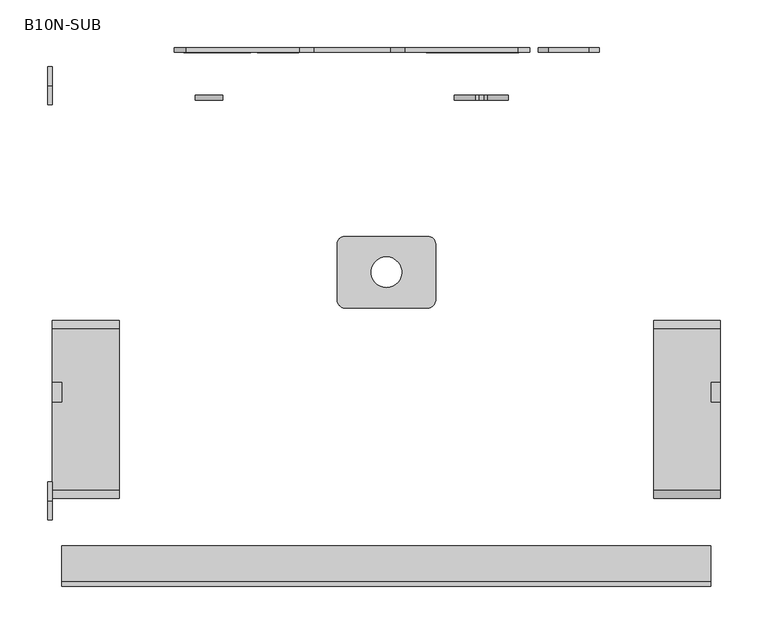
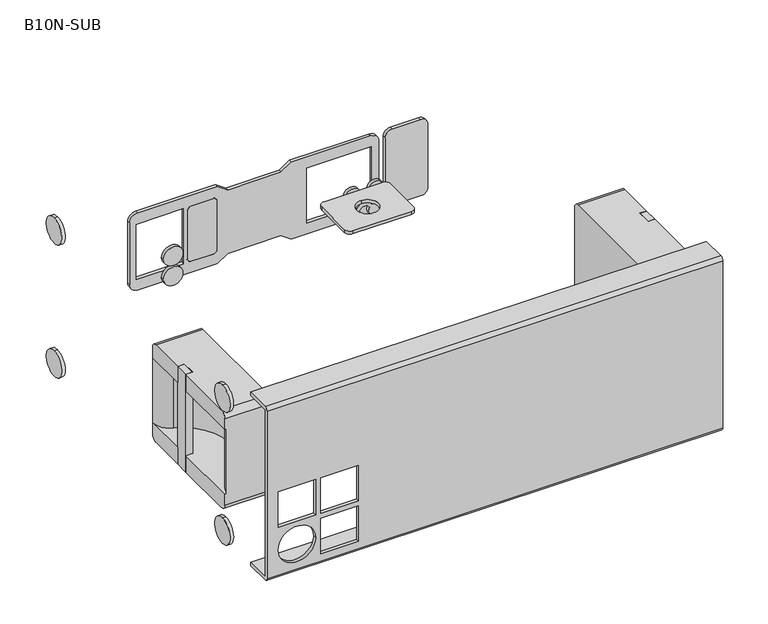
"""IFC4 building model written with IfcOpenShell, lengths in millimetres: proxy geometry, d&b B10N-SUB : B10N-SUB."""

from ifc_helpers import new_model, si_unit, point, frame, frame_2d, origin, place, context, project, spatial, polyline, circle_curve, trimmed, segment, composite_curve, outline, extrude, source, transform, mapped, element, save
from ifc_brep_helpers import plane_surface, cylinder_surface, revolved_surface, advanced_brep


def b10n_sub_55d3283e(model_context):
    return source(origin(), model_context, "Body", "SolidModel", [
        advanced_brep(
        [(2782.5, 31.2505973, 73.75), (2782.5, 31.2505973, 210.25), (2782.5, 40.2505973, 219.25), (2782.5, 209.2505973, 219.25), (2782.5, 218.2505973, 210.25), (2782.5, 218.2505973, 73.75), (2782.5, 209.2505973, 64.75), (2782.5, 40.2505973, 64.75), (2852.5, 218.2505973, 90.75), (2852.5, 153.5505973, 90.75), (2852.5, 153.5505973, 64.75), (2852.5, 209.2505973, 64.75), (2852.5, 218.2505973, 73.75), (2852.5, 31.2505973, 73.75), (2852.5, 40.2505973, 64.75), (2852.5, 132.1755973, 64.75), (2852.5, 132.1755973, 90.75), (2852.5, 31.2505973, 90.75), (2852.5, 31.2505973, 210.25), (2852.5, 31.2505973, 193.25), (2852.5, 132.1755973, 193.25), (2852.5, 132.1755973, 219.25), (2852.5, 40.2505973, 219.25), (2852.5, 218.2505973, 193.25), (2852.5, 218.2505973, 210.25), (2852.5, 209.2505973, 219.25), (2852.5, 153.5505973, 219.25), (2852.5, 153.5505973, 193.25), (2842.5, 153.5505973, 64.75), (2842.5, 132.1755973, 64.75), (2850.3277755, 31.2505973, 90.75), (2850.3277755, 31.2505973, 193.25), (2842.5, 132.1755973, 90.75), (2835.5638712, 194.3480463, 90.75), (2821.2971722, 71.2198126, 90.75), (2842.5, 153.5505973, 90.75), (2821.2971722, 71.2198126, 193.25), (2835.5638712, 194.3480463, 193.25), (2842.5, 153.5505973, 193.25), (2842.5, 132.1755973, 193.25), (2842.5, 132.1755973, 219.25), (2842.5, 153.5505973, 219.25)],
        [
            (0, 1),
            (1, 2, circle_curve(frame((2782.5, 40.2505973, 210.25), z_axis=(-1.0, 0.0, 0.0), x_axis=(0.0, 0.0, 1.0)), 9.0)),
            (2, 3),
            (3, 4, circle_curve(frame((2782.5, 209.2505973, 210.25), z_axis=(-1.0, 0.0, 0.0), x_axis=(0.0, 0.0, 1.0)), 9.0)),
            (4, 5),
            (5, 6, circle_curve(frame((2782.5, 209.2505973, 73.75), z_axis=(-1.0, 0.0, 0.0), x_axis=(0.0, 0.0, -1.0)), 9.0)),
            (6, 7),
            (7, 0, circle_curve(frame((2782.5, 40.2505973, 73.75), z_axis=(-1.0, 0.0, 0.0), x_axis=(0.0, 0.0, -1.0)), 9.0)),
            (8, 9),
            (9, 10),
            (10, 11),
            (11, 12, circle_curve(frame((2852.5, 209.2505973, 73.75), z_axis=(1.0, 0.0, 0.0), x_axis=(0.0, 0.0, -1.0)), 9.0)),
            (12, 8),
            (13, 14, circle_curve(frame((2852.5, 40.2505973, 73.75), z_axis=(1.0, 0.0, 0.0), x_axis=(0.0, 0.0, -1.0)), 9.0)),
            (14, 15),
            (15, 16),
            (16, 17),
            (17, 13),
            (18, 19),
            (19, 20),
            (20, 21),
            (21, 22),
            (22, 18, circle_curve(frame((2852.5, 40.2505973, 210.25), z_axis=(1.0, 0.0, 0.0), x_axis=(0.0, 0.0, 1.0)), 9.0)),
            (23, 24),
            (24, 25, circle_curve(frame((2852.5, 209.2505973, 210.25), z_axis=(1.0, 0.0, 0.0), x_axis=(0.0, 0.0, 1.0)), 9.0)),
            (25, 26),
            (26, 27),
            (27, 23),
            (7, 14),
            (13, 0),
            (10, 28),
            (28, 29),
            (29, 15),
            (6, 11),
            (5, 12),
            (4, 24),
            (23, 8),
            (17, 30),
            (30, 31),
            (31, 19),
            (18, 1),
            (29, 32),
            (32, 16),
            (8, 33, circle_curve(frame((2827.1646824, 218.2505973, 90.75), z_axis=(0.0, 0.0, -1.0), x_axis=(-1.0, 0.0, 0.0)), 25.3353176)),
            (33, 34, circle_curve(frame((2858.418024, 129.3093188, 90.75), z_axis=(0.0, 0.0, 1.0), x_axis=(-1.0, 0.0, 0.0)), 68.9372786)),
            (34, 30, circle_curve(frame((2784.8922182, 14.2505973, 90.75), z_axis=(0.0, 0.0, -1.0), x_axis=(-1.0, 0.0, 0.0)), 67.6077818)),
            (32, 35),
            (35, 9),
            (35, 28),
            (31, 36, circle_curve(frame((2784.8922182, 14.2505973, 193.25), z_axis=(0.0, 0.0, 1.0), x_axis=(-1.0, 0.0, 0.0)), 67.6077818)),
            (36, 37, circle_curve(frame((2858.418024, 129.3093188, 193.25), z_axis=(0.0, 0.0, -1.0), x_axis=(-1.0, 0.0, 0.0)), 68.9372786)),
            (37, 23, circle_curve(frame((2827.1646824, 218.2505973, 193.25), z_axis=(0.0, 0.0, 1.0), x_axis=(-1.0, 0.0, 0.0)), 25.3353176)),
            (27, 38),
            (38, 39),
            (39, 20),
            (39, 40),
            (40, 21),
            (40, 41),
            (41, 26),
            (25, 3),
            (2, 22),
            (41, 38),
            (34, 36),
            (37, 33),
        ],
        [
            plane_surface(frame((2782.5, 40.2505973, 64.75), z_axis=(-1.0, 0.0, 0.0), x_axis=(0.0, 1.0, 0.0))),
            plane_surface(frame((2852.5, 40.2505973, 64.75), z_axis=(1.0, 0.0, 0.0), x_axis=(0.0, -1.0, 0.0))),
            cylinder_surface(frame((2852.5, 40.2505973, 73.75), z_axis=(-1.0, 0.0, 0.0), x_axis=(0.0, 0.0, -1.0)), 9.0),
            plane_surface(frame((2782.5, 40.2505973, 64.75), z_axis=(0.0, 0.0, -1.0), x_axis=(1.0, 0.0, 0.0))),
            cylinder_surface(frame((2852.5, 209.2505973, 73.75), z_axis=(-1.0, 0.0, 0.0), x_axis=(0.0, 0.0, -1.0)), 9.0),
            plane_surface(frame((2782.5, 218.2505973, 73.75), z_axis=(0.0, 1.0, 0.0), x_axis=(1.0, 0.0, 0.0))),
            plane_surface(frame((2782.5, 31.2505973, 90.75), z_axis=(0.0, -1.0, 0.0), x_axis=(1.0, 0.0, 0.0))),
            plane_surface(frame((2782.5, 132.1755973, 64.75), z_axis=(0.0, 1.0, 0.0), x_axis=(1.0, 0.0, 0.0))),
            plane_surface(frame((2782.5, 132.1755973, 90.75), z_axis=(0.0, 0.0, 1.0), x_axis=(1.0, 0.0, 0.0))),
            plane_surface(frame((2782.5, 153.5505973, 90.75), z_axis=(0.0, -1.0, 0.0), x_axis=(1.0, 0.0, 0.0))),
            plane_surface(frame((2782.5, 31.2505973, 193.25), z_axis=(0.0, 0.0, -1.0), x_axis=(1.0, 0.0, 0.0))),
            plane_surface(frame((2782.5, 132.1755973, 193.25), z_axis=(0.0, 1.0, 0.0), x_axis=(1.0, 0.0, 0.0))),
            plane_surface(frame((2782.5, 132.1755973, 219.25), z_axis=(0.0, 0.0, 1.0), x_axis=(1.0, 0.0, 0.0))),
            cylinder_surface(frame((2852.5, 40.2505973, 210.25), z_axis=(-1.0, 0.0, 0.0), x_axis=(0.0, 0.0, 1.0)), 9.0),
            cylinder_surface(frame((2852.5, 209.2505973, 210.25), z_axis=(-1.0, 0.0, 0.0), x_axis=(0.0, 0.0, 1.0)), 9.0),
            plane_surface(frame((2782.5, 153.5505973, 219.25), z_axis=(0.0, -1.0, 0.0), x_axis=(1.0, 0.0, 0.0))),
            plane_surface(frame((2842.5, 153.5505973, 81.9999786), z_axis=(1.0, 0.0, 0.0), x_axis=(0.0, 0.0, -1.0))),
            cylinder_surface(frame((2784.8922182, 14.2505973, 90.75), z_axis=(0.0, 0.0, 1.0), x_axis=(-1.0, 0.0, 0.0)), 67.6077818),
            cylinder_surface(frame((2827.1646824, 218.2505973, 90.75), z_axis=(0.0, 0.0, 1.0), x_axis=(-1.0, 0.0, 0.0)), 25.3353176),
            revolved_surface(polyline([(2789.4807454, 129.3093188, 90.75), (2789.4807454, 129.3093188, 193.25)]), (2858.418024, 129.3093188, 90.75), (0.0, 0.0, -1.0)),
        ],
        [
            (0, [[1, 2, 3, 4, 5, 6, 7, 8]]),
            (1, [[9, 10, 11, 12, 13]]),
            (1, [[14, 15, 16, 17, 18]]),
            (1, [[19, 20, 21, 22, 23]]),
            (1, [[24, 25, 26, 27, 28]]),
            (2, [[29, -14, 30, -8]]),
            (3, [[31, 32, 33, -15, -29, -7, 34, -11]]),
            (4, [[35, -12, -34, -6]]),
            (5, [[36, -24, 37, -13, -35, -5]]),
            (6, [[-30, -18, 38, 39, 40, -19, 41, -1]]),
            (7, [[-33, 42, 43, -16]]),
            (8, [[44, 45, 46, -38, -17, -43, 47, 48, -9]]),
            (9, [[-48, 49, -31, -10]]),
            (10, [[-40, 50, 51, 52, -28, 53, 54, 55, -20]]),
            (11, [[-55, 56, 57, -21]]),
            (12, [[-57, 58, 59, -26, 60, -3, 61, -22]]),
            (13, [[-41, -23, -61, -2]]),
            (14, [[-60, -25, -36, -4]]),
            (15, [[-59, 62, -53, -27]]),
            (16, [[-49, -47, -42, -32]]),
            (16, [[-62, -58, -56, -54]]),
            (17, [[-50, -39, -46, 63]]),
            (18, [[-52, 64, -44, -37]]),
            (19, [[-45, -64, -51, -63]]),
        ],
    ),
        extrude(outline(polyline([(2842.5, 153.5505973), (2852.5, 153.5505973), (2852.5, 132.1755973), (2842.5, 132.1755973), (2842.5, 153.5505973)])), frame((0.0, 0.0, 64.75), z_axis=(0.0, 0.0, 1.0), x_axis=(1.0, 0.0, 0.0)), (0.0, 0.0, 1.0), 154.5),
        advanced_brep(
        [(2222.5, 31.2505973, 73.75), (2222.5, 40.2505973, 64.75), (2222.5, 209.2505973, 64.75), (2222.5, 218.2505973, 73.75), (2222.5, 218.2505973, 210.25), (2222.5, 209.2505973, 219.25), (2222.5, 40.2505973, 219.25), (2222.5, 31.2505973, 210.25), (2152.5, 218.2505973, 90.75), (2152.5, 218.2505973, 73.75), (2152.5, 209.2505973, 64.75), (2152.5, 153.5505973, 64.75), (2152.5, 153.5505973, 90.75), (2152.5, 31.2505973, 73.75), (2152.5, 31.2505973, 90.75), (2152.5, 132.1755973, 90.75), (2152.5, 132.1755973, 64.75), (2152.5, 40.2505973, 64.75), (2152.5, 31.2505973, 210.25), (2152.5, 40.2505973, 219.25), (2152.5, 132.1755973, 219.25), (2152.5, 132.1755973, 193.25), (2152.5, 31.2505973, 193.25), (2152.5, 218.2505973, 193.25), (2152.5, 153.5505973, 193.25), (2152.5, 153.5505973, 219.25), (2152.5, 209.2505973, 219.25), (2152.5, 218.2505973, 210.25), (2162.5, 132.1755973, 64.75), (2162.5, 153.5505973, 64.75), (2154.6722245, 31.2505973, 193.25), (2154.6722245, 31.2505973, 90.75), (2162.5, 132.1755973, 90.75), (2162.5, 153.5505973, 90.75), (2183.7028278, 71.2198126, 90.75), (2169.4361288, 194.3480463, 90.75), (2162.5, 132.1755973, 193.25), (2162.5, 153.5505973, 193.25), (2169.4361288, 194.3480463, 193.25), (2183.7028278, 71.2198126, 193.25), (2162.5, 132.1755973, 219.25), (2162.5, 153.5505973, 219.25)],
        [
            (0, 1, circle_curve(frame((2222.5, 40.2505973, 73.75), z_axis=(1.0, 0.0, 0.0), x_axis=(0.0, 0.0, -1.0)), 9.0)),
            (1, 2),
            (2, 3, circle_curve(frame((2222.5, 209.2505973, 73.75), z_axis=(1.0, 0.0, 0.0), x_axis=(0.0, 0.0, -1.0)), 9.0)),
            (3, 4),
            (4, 5, circle_curve(frame((2222.5, 209.2505973, 210.25), z_axis=(1.0, 0.0, 0.0), x_axis=(0.0, 0.0, 1.0)), 9.0)),
            (5, 6),
            (6, 7, circle_curve(frame((2222.5, 40.2505973, 210.25), z_axis=(1.0, 0.0, 0.0), x_axis=(0.0, 0.0, 1.0)), 9.0)),
            (7, 0),
            (8, 9),
            (9, 10, circle_curve(frame((2152.5, 209.2505973, 73.75), z_axis=(-1.0, 0.0, 0.0), x_axis=(0.0, 0.0, -1.0)), 9.0)),
            (10, 11),
            (11, 12),
            (12, 8),
            (13, 14),
            (14, 15),
            (15, 16),
            (16, 17),
            (17, 13, circle_curve(frame((2152.5, 40.2505973, 73.75), z_axis=(-1.0, 0.0, 0.0), x_axis=(0.0, 0.0, -1.0)), 9.0)),
            (18, 19, circle_curve(frame((2152.5, 40.2505973, 210.25), z_axis=(-1.0, 0.0, 0.0), x_axis=(0.0, 0.0, 1.0)), 9.0)),
            (19, 20),
            (20, 21),
            (21, 22),
            (22, 18),
            (23, 24),
            (24, 25),
            (25, 26),
            (26, 27, circle_curve(frame((2152.5, 209.2505973, 210.25), z_axis=(-1.0, 0.0, 0.0), x_axis=(0.0, 0.0, 1.0)), 9.0)),
            (27, 23),
            (0, 13),
            (17, 1),
            (10, 2),
            (16, 28),
            (28, 29),
            (29, 11),
            (9, 3),
            (8, 23),
            (27, 4),
            (7, 18),
            (22, 30),
            (30, 31),
            (31, 14),
            (15, 32),
            (32, 28),
            (12, 33),
            (33, 32),
            (31, 34, circle_curve(frame((2220.1077818, 14.2505973, 90.75), z_axis=(0.0, 0.0, -1.0), x_axis=(1.0, 0.0, 0.0)), 67.6077818)),
            (34, 35, circle_curve(frame((2146.581976, 129.3093188, 90.75), z_axis=(0.0, 0.0, 1.0), x_axis=(1.0, 0.0, 0.0)), 68.9372786)),
            (35, 8, circle_curve(frame((2177.8353176, 218.2505973, 90.75), z_axis=(0.0, 0.0, -1.0), x_axis=(1.0, 0.0, 0.0)), 25.3353176)),
            (29, 33),
            (21, 36),
            (36, 37),
            (37, 24),
            (23, 38, circle_curve(frame((2177.8353176, 218.2505973, 193.25), z_axis=(0.0, 0.0, 1.0), x_axis=(1.0, 0.0, 0.0)), 25.3353176)),
            (38, 39, circle_curve(frame((2146.581976, 129.3093188, 193.25), z_axis=(0.0, 0.0, -1.0), x_axis=(1.0, 0.0, 0.0)), 68.9372786)),
            (39, 30, circle_curve(frame((2220.1077818, 14.2505973, 193.25), z_axis=(0.0, 0.0, 1.0), x_axis=(1.0, 0.0, 0.0)), 67.6077818)),
            (20, 40),
            (40, 36),
            (19, 6),
            (5, 26),
            (25, 41),
            (41, 40),
            (37, 41),
            (39, 34),
            (35, 38),
        ],
        [
            plane_surface(frame((2222.5, 40.2505973, 64.75), z_axis=(1.0, 0.0, 0.0), x_axis=(0.0, 1.0, 0.0))),
            plane_surface(frame((2152.5, 40.2505973, 64.75), z_axis=(-1.0, 0.0, 0.0), x_axis=(0.0, -1.0, 0.0))),
            cylinder_surface(frame((2152.5, 40.2505973, 73.75), z_axis=(1.0, 0.0, 0.0), x_axis=(0.0, 0.0, -1.0)), 9.0),
            plane_surface(frame((2222.5, 40.2505973, 64.75), z_axis=(0.0, 0.0, -1.0), x_axis=(-1.0, 0.0, 0.0))),
            cylinder_surface(frame((2152.5, 209.2505973, 73.75), z_axis=(1.0, 0.0, 0.0), x_axis=(0.0, 0.0, -1.0)), 9.0),
            plane_surface(frame((2222.5, 218.2505973, 73.75), z_axis=(0.0, 1.0, 0.0), x_axis=(-1.0, 0.0, 0.0))),
            plane_surface(frame((2222.5, 31.2505973, 90.75), z_axis=(0.0, -1.0, 0.0), x_axis=(-1.0, 0.0, 0.0))),
            plane_surface(frame((2222.5, 132.1755973, 64.75), z_axis=(0.0, 1.0, 0.0), x_axis=(-1.0, 0.0, 0.0))),
            plane_surface(frame((2222.5, 132.1755973, 90.75), z_axis=(0.0, 0.0, 1.0), x_axis=(-1.0, 0.0, 0.0))),
            plane_surface(frame((2222.5, 153.5505973, 90.75), z_axis=(0.0, -1.0, 0.0), x_axis=(-1.0, 0.0, 0.0))),
            plane_surface(frame((2222.5, 31.2505973, 193.25), z_axis=(0.0, 0.0, -1.0), x_axis=(-1.0, 0.0, 0.0))),
            plane_surface(frame((2222.5, 132.1755973, 193.25), z_axis=(0.0, 1.0, 0.0), x_axis=(-1.0, 0.0, 0.0))),
            plane_surface(frame((2222.5, 132.1755973, 219.25), z_axis=(0.0, 0.0, 1.0), x_axis=(-1.0, 0.0, 0.0))),
            cylinder_surface(frame((2152.5, 40.2505973, 210.25), z_axis=(1.0, 0.0, 0.0), x_axis=(0.0, 0.0, 1.0)), 9.0),
            cylinder_surface(frame((2152.5, 209.2505973, 210.25), z_axis=(1.0, 0.0, 0.0), x_axis=(0.0, 0.0, 1.0)), 9.0),
            plane_surface(frame((2222.5, 153.5505973, 219.25), z_axis=(0.0, -1.0, 0.0), x_axis=(-1.0, 0.0, 0.0))),
            plane_surface(frame((2162.5, 153.5505973, 81.9999786), z_axis=(-1.0, 0.0, 0.0), x_axis=(0.0, 0.0, -1.0))),
            cylinder_surface(frame((2220.1077818, 14.2505973, 90.75), z_axis=(0.0, 0.0, 1.0), x_axis=(1.0, 0.0, 0.0)), 67.6077818),
            cylinder_surface(frame((2177.8353176, 218.2505973, 90.75), z_axis=(0.0, 0.0, 1.0), x_axis=(1.0, 0.0, 0.0)), 25.3353176),
            revolved_surface(polyline([(2215.5192546, 129.3093188, 90.75), (2215.5192546, 129.3093188, 193.25)]), (2146.581976, 129.3093188, 90.75), (0.0, 0.0, -1.0)),
        ],
        [
            (0, [[1, 2, 3, 4, 5, 6, 7, 8]]),
            (1, [[9, 10, 11, 12, 13]]),
            (1, [[14, 15, 16, 17, 18]]),
            (1, [[19, 20, 21, 22, 23]]),
            (1, [[24, 25, 26, 27, 28]]),
            (2, [[-1, 29, -18, 30]]),
            (3, [[-11, 31, -2, -30, -17, 32, 33, 34]]),
            (4, [[-3, -31, -10, 35]]),
            (5, [[-4, -35, -9, 36, -28, 37]]),
            (6, [[-8, 38, -23, 39, 40, 41, -14, -29]]),
            (7, [[-16, 42, 43, -32]]),
            (8, [[-13, 44, 45, -42, -15, -41, 46, 47, 48]]),
            (9, [[-12, -34, 49, -44]]),
            (10, [[-22, 50, 51, 52, -24, 53, 54, 55, -39]]),
            (11, [[-21, 56, 57, -50]]),
            (12, [[-20, 58, -6, 59, -26, 60, 61, -56]]),
            (13, [[-7, -58, -19, -38]]),
            (14, [[-5, -37, -27, -59]]),
            (15, [[-25, -52, 62, -60]]),
            (16, [[-33, -43, -45, -49]]),
            (16, [[-51, -57, -61, -62]]),
            (17, [[63, -46, -40, -55]]),
            (18, [[-36, -48, 64, -53]]),
            (19, [[-63, -54, -64, -47]]),
        ],
    ),
        extrude(outline(polyline([(2162.5, 153.5505973), (2162.5, 132.1755973), (2152.5, 132.1755973), (2152.5, 153.5505973), (2162.5, 153.5505973)])), frame((0.0, 0.0, 64.75), z_axis=(0.0, 0.0, 1.0), x_axis=(1.0, 0.0, 0.0)), (0.0, 0.0, 1.0), 154.5),
        extrude(outline(composite_curve([segment(trimmed(circle_curve(frame_2d((156.4999199, 2316.5000039)), 14.5), [point((156.4999199, 2331.0000039))], [point((156.4999199, 2302.0000039))], False, "CARTESIAN"), True, "CONTINUOUS"), segment(trimmed(circle_curve(frame_2d((156.4999199, 2316.5000039)), 14.5), [point((156.4999199, 2302.0000039))], [point((156.4999199, 2331.0000039))], False, "CARTESIAN"), True, "CONTINUOUS")], self_intersect=False)), frame((0.0, 449.0471889, 0.0), z_axis=(0.0, 1.0, 0.0), x_axis=(0.0, 0.0, 1.0)), (0.0, 0.0, 1.0), 5.2034084),
        extrude(outline(composite_curve([segment(trimmed(circle_curve(frame_2d((124.9999199, 2316.5000958)), 14.5), [point((124.9999199, 2331.0000958))], [point((124.9999199, 2302.0000958))], False, "CARTESIAN"), True, "CONTINUOUS"), segment(trimmed(circle_curve(frame_2d((124.9999199, 2316.5000958)), 14.5), [point((124.9999199, 2302.0000958))], [point((124.9999199, 2331.0000958))], False, "CARTESIAN"), True, "CONTINUOUS")], self_intersect=False)), frame((0.0, 449.0471889, 0.0), z_axis=(0.0, 1.0, 0.0), x_axis=(0.0, 0.0, 1.0)), (0.0, 0.0, 1.0), 5.2034084),
        extrude(outline(composite_curve([segment(polyline([(135.0668453, 2613.2876173), (139.8025463, 2608.1079468)]), True, "CONTINUOUS"), segment(trimmed(circle_curve(frame_2d((141.9996546, 2601.9998911)), 6.4911963), [point((139.8025463, 2608.1079468))], [point((144.1972827, 2608.1077598))], False, "CARTESIAN"), True, "CONTINUOUS"), segment(polyline([(144.1972827, 2608.1077598), (148.9331547, 2613.2876173)]), True, "CONTINUOUS"), segment(trimmed(circle_curve(frame_2d((158.0003519, 2619.4998899)), 10.9911963), [point((148.9331547, 2613.2876173))], [point((152.623298, 2609.9137704))], False, "CARTESIAN"), True, "CONTINUOUS"), segment(polyline([(152.623298, 2609.9137704), (147.8871389, 2604.7335989)]), True, "CONTINUOUS"), segment(trimmed(circle_curve(frame_2d((141.9996546, 2601.9998911)), 6.4911963), [point((147.8871389, 2604.7335989))], [point((147.8871389, 2599.2661832))], False, "CARTESIAN"), True, "CONTINUOUS"), segment(polyline([(147.8871389, 2599.2661832), (152.623298, 2594.0860117)]), True, "CONTINUOUS"), segment(trimmed(circle_curve(frame_2d((158.0003519, 2584.4998922)), 10.9911963), [point((152.623298, 2594.0860117))], [point((148.9331547, 2590.7121648))], False, "CARTESIAN"), True, "CONTINUOUS"), segment(polyline([(148.9331547, 2590.7121648), (144.1972827, 2595.8920224)]), True, "CONTINUOUS"), segment(trimmed(circle_curve(frame_2d((141.9996546, 2601.9998911)), 6.4911963), [point((144.1972827, 2595.8920224))], [point((139.8025463, 2595.8918354))], False, "CARTESIAN"), True, "CONTINUOUS"), segment(polyline([(139.8025463, 2595.8918354), (135.0668453, 2590.7121648)]), True, "CONTINUOUS"), segment(trimmed(circle_curve(frame_2d((125.9996481, 2584.4998922)), 10.9911963), [point((135.0668453, 2590.7121648))], [point((131.376702, 2594.0860117))], False, "CARTESIAN"), True, "CONTINUOUS"), segment(polyline([(131.376702, 2594.0860117), (136.112403, 2599.2656822)]), True, "CONTINUOUS"), segment(trimmed(circle_curve(frame_2d((141.9996546, 2601.9998911)), 6.4911963), [point((136.112403, 2599.2656822))], [point((136.112403, 2604.7340999))], False, "CARTESIAN"), True, "CONTINUOUS"), segment(polyline([(136.112403, 2604.7340999), (131.376702, 2609.9137704)]), True, "CONTINUOUS"), segment(trimmed(circle_curve(frame_2d((125.9996481, 2619.4998899)), 10.9911963), [point((131.376702, 2609.9137704))], [point((135.0668453, 2613.2876173))], False, "CARTESIAN"), True, "CONTINUOUS")], self_intersect=False)), frame((0.0, 449.0471889, 0.0), z_axis=(0.0, 1.0, 0.0), x_axis=(0.0, 0.0, 1.0)), (0.0, 0.0, 1.0), 5.2034084),
        extrude(outline(composite_curve([segment(trimmed(circle_curve(frame_2d((2546.0, 298.2505973)), 8.0), [point((2546.0, 306.2505973))], [point((2554.0, 298.2505973))], False, "CARTESIAN"), True, "CONTINUOUS"), segment(polyline([(2554.0, 298.2505973), (2554.0, 239.2505973)]), True, "CONTINUOUS"), segment(trimmed(circle_curve(frame_2d((2546.0, 239.2505973)), 8.0), [point((2554.0, 239.2505973))], [point((2546.0, 231.2505973))], False, "CARTESIAN"), True, "CONTINUOUS"), segment(polyline([(2546.0, 231.2505973), (2459.0, 231.2505973)]), True, "CONTINUOUS"), segment(trimmed(circle_curve(frame_2d((2459.0, 239.2505973)), 8.0), [point((2459.0, 231.2505973))], [point((2451.0, 239.2505973))], False, "CARTESIAN"), True, "CONTINUOUS"), segment(polyline([(2451.0, 239.2505973), (2451.0, 298.2505973)]), True, "CONTINUOUS"), segment(trimmed(circle_curve(frame_2d((2459.0, 298.2505973)), 8.0), [point((2451.0, 298.2505973))], [point((2459.0, 306.2505973))], False, "CARTESIAN"), True, "CONTINUOUS"), segment(polyline([(2459.0, 306.2505973), (2546.0, 306.2505973)]), True, "CONTINUOUS")], self_intersect=False), holes=[composite_curve([segment(trimmed(circle_curve(frame_2d((2502.5, 268.7505973)), 16.0), [point((2502.5, 252.7505973))], [point((2502.5, 284.7505973))], True, "CARTESIAN"), True, "CONTINUOUS"), segment(trimmed(circle_curve(frame_2d((2502.5, 268.7505973)), 16.0), [point((2502.5, 284.7505973))], [point((2502.5, 252.7505973))], True, "CARTESIAN"), True, "CONTINUOUS")], self_intersect=False)]), frame((0.0, 0.0, 274.0), z_axis=(0.0, 0.0, 1.0), x_axis=(1.0, 0.0, 0.0)), (0.0, 0.0, 1.0), 5.0),
        advanced_brep(
        [(2842.7, -60.7494027, 10.0), (2842.7, -55.7494027, 5.0), (2842.7, -18.2494027, 5.0), (2842.7, -18.2494027, 10.0), (2842.7, -55.7494027, 10.0), (2842.7, -55.7494027, 274.0), (2842.7, -18.2494027, 274.0), (2842.7, -18.2494027, 279.0), (2842.7, -55.7494027, 279.0), (2842.7, -60.7494027, 274.0), (2162.3, -60.7494027, 10.0), (2162.3, -60.7494027, 274.0), (2162.3, -55.7494027, 279.0), (2162.3, -18.2494027, 279.0), (2162.3, -18.2494027, 274.0), (2162.3, -55.7494027, 274.0), (2162.3, -55.7494027, 10.0), (2162.3, -18.2494027, 10.0), (2162.3, -18.2494027, 5.0), (2162.3, -55.7494027, 5.0), (2234.8, -55.7494027, 85.5), (2234.8, -55.7494027, 141.5), (2178.8, -55.7494027, 141.5), (2178.8, -55.7494027, 85.5), (2298.8, -55.7494027, 85.5), (2298.8, -55.7494027, 141.5), (2242.8, -55.7494027, 141.5), (2242.8, -55.7494027, 85.5), (2298.8, -55.7494027, 21.5), (2298.8, -55.7494027, 77.5), (2242.8, -55.7494027, 77.5), (2242.8, -55.7494027, 21.5), (2178.8, -55.7494027, 49.5), (2234.8, -55.7494027, 49.5), (2234.8, -60.7494027, 141.5), (2234.8, -60.7494027, 85.5), (2178.8, -60.7494027, 85.5), (2178.8, -60.7494027, 141.5), (2298.8, -60.7494027, 141.5), (2298.8, -60.7494027, 85.5), (2242.8, -60.7494027, 85.5), (2242.8, -60.7494027, 141.5), (2298.8, -60.7494027, 77.5), (2298.8, -60.7494027, 21.5), (2242.8, -60.7494027, 21.5), (2242.8, -60.7494027, 77.5), (2234.8, -60.7494027, 49.5), (2178.8, -60.7494027, 49.5)],
        [
            (0, 1, circle_curve(frame((2842.7, -55.7494027, 10.0), z_axis=(1.0, 0.0, 0.0), x_axis=(0.0, 1.0, 0.0)), 5.0)),
            (1, 2),
            (2, 3),
            (3, 4),
            (4, 5),
            (5, 6),
            (6, 7),
            (7, 8),
            (8, 9, circle_curve(frame((2842.7, -55.7494027, 274.0), z_axis=(1.0, 0.0, 0.0), x_axis=(0.0, 1.0, 0.0)), 5.0)),
            (9, 0),
            (10, 11),
            (11, 12, circle_curve(frame((2162.3, -55.7494027, 274.0), z_axis=(-1.0, 0.0, 0.0), x_axis=(0.0, 1.0, 0.0)), 5.0)),
            (12, 13),
            (13, 14),
            (14, 15),
            (15, 16),
            (16, 17),
            (17, 18),
            (18, 19),
            (19, 10, circle_curve(frame((2162.3, -55.7494027, 10.0), z_axis=(-1.0, 0.0, 0.0), x_axis=(0.0, 1.0, 0.0)), 5.0)),
            (4, 16),
            (15, 5),
            (20, 21),
            (21, 22),
            (22, 23),
            (23, 20),
            (24, 25),
            (25, 26),
            (26, 27),
            (27, 24),
            (28, 29),
            (29, 30),
            (30, 31),
            (31, 28),
            (32, 33, circle_curve(frame((2206.8, -55.7494027, 49.5), z_axis=(0.0, -1.0, 0.0), x_axis=(-1.0, 0.0, 0.0)), 28.0)),
            (33, 32, circle_curve(frame((2206.8, -55.7494027, 49.5), z_axis=(0.0, -1.0, 0.0), x_axis=(-1.0, 0.0, 0.0)), 28.0)),
            (14, 6),
            (9, 11),
            (10, 0),
            (34, 35),
            (35, 36),
            (36, 37),
            (37, 34),
            (38, 39),
            (39, 40),
            (40, 41),
            (41, 38),
            (42, 43),
            (43, 44),
            (44, 45),
            (45, 42),
            (46, 47, circle_curve(frame((2206.8, -60.7494027, 49.5), z_axis=(0.0, 1.0, 0.0), x_axis=(-1.0, 0.0, 0.0)), 28.0)),
            (47, 46, circle_curve(frame((2206.8, -60.7494027, 49.5), z_axis=(0.0, 1.0, 0.0), x_axis=(-1.0, 0.0, 0.0)), 28.0)),
            (34, 21),
            (20, 35),
            (23, 36),
            (37, 22),
            (38, 25),
            (24, 39),
            (27, 40),
            (26, 41),
            (42, 29),
            (28, 43),
            (31, 44),
            (30, 45),
            (46, 33),
            (32, 47),
            (3, 17),
            (13, 7),
            (12, 8),
            (19, 1),
            (18, 2),
        ],
        [
            plane_surface(frame((2842.7, -50.7494027, 10.0), z_axis=(1.0, 0.0, 0.0), x_axis=(0.0, 0.0, 1.0))),
            plane_surface(frame((2162.3, -50.7494027, 10.0), z_axis=(-1.0, 0.0, 0.0), x_axis=(0.0, 0.0, -1.0))),
            plane_surface(frame((2842.7, -55.7494027, 10.0), z_axis=(0.0, 1.0, 0.0), x_axis=(-1.0, 0.0, 0.0))),
            plane_surface(frame((2842.7, -55.7494027, 274.0), z_axis=(0.0, 0.0, -1.0), x_axis=(-1.0, 0.0, 0.0))),
            plane_surface(frame((2842.7, -60.7494027, 274.0), z_axis=(0.0, -1.0, 0.0), x_axis=(-1.0, 0.0, 0.0))),
            plane_surface(frame((2234.8, -50.7494027, 141.5), z_axis=(-1.0, 0.0, 0.0), x_axis=(0.0, -1.0, 0.0))),
            plane_surface(frame((2234.8, -50.7494027, 85.5), z_axis=(0.0, 0.0, 1.0), x_axis=(0.0, -1.0, 0.0))),
            plane_surface(frame((2178.8, -50.7494027, 141.5), z_axis=(0.0, 0.0, -1.0), x_axis=(0.0, -1.0, 0.0))),
            plane_surface(frame((2298.8, -50.7494027, 141.5), z_axis=(-1.0, 0.0, 0.0), x_axis=(0.0, -1.0, 0.0))),
            plane_surface(frame((2298.8, -50.7494027, 85.5), z_axis=(0.0, 0.0, 1.0), x_axis=(0.0, -1.0, 0.0))),
            plane_surface(frame((2242.8, -50.7494027, 85.5), z_axis=(1.0, 0.0, 0.0), x_axis=(0.0, -1.0, 0.0))),
            plane_surface(frame((2242.8, -50.7494027, 141.5), z_axis=(0.0, 0.0, -1.0), x_axis=(0.0, -1.0, 0.0))),
            plane_surface(frame((2298.8, -50.7494027, 77.5), z_axis=(-1.0, 0.0, 0.0), x_axis=(0.0, -1.0, 0.0))),
            plane_surface(frame((2298.8, -50.7494027, 21.5), z_axis=(0.0, 0.0, 1.0), x_axis=(0.0, -1.0, 0.0))),
            plane_surface(frame((2242.8, -50.7494027, 21.5), z_axis=(1.0, 0.0, 0.0), x_axis=(0.0, -1.0, 0.0))),
            plane_surface(frame((2242.8, -50.7494027, 77.5), z_axis=(0.0, 0.0, -1.0), x_axis=(0.0, -1.0, 0.0))),
            revolved_surface(polyline([(2178.8, -55.7494027, 49.5), (2178.8, -60.7494027, 49.5)]), (2206.8, -60.7494027, 49.5), (0.0, 1.0, 0.0)),
            plane_surface(frame((2842.7, -18.2494027, 10.0), z_axis=(0.0, 0.0, 1.0), x_axis=(-1.0, 0.0, 0.0))),
            plane_surface(frame((2842.7, -18.2494027, 274.0), z_axis=(0.0, 1.0, 0.0), x_axis=(-1.0, 0.0, 0.0))),
            plane_surface(frame((2842.7, -18.2494027, 279.0), z_axis=(0.0, 0.0, 1.0), x_axis=(-1.0, 0.0, 0.0))),
            cylinder_surface(frame((2162.3, -55.7494027, 10.0), z_axis=(1.0, 0.0, 0.0), x_axis=(0.0, 1.0, 0.0)), 5.0),
            plane_surface(frame((2842.7, -55.7494027, 5.0), z_axis=(0.0, 0.0, -1.0), x_axis=(-1.0, 0.0, 0.0))),
            plane_surface(frame((2842.7, -18.2494027, 5.0), z_axis=(0.0, 1.0, 0.0), x_axis=(-1.0, 0.0, 0.0))),
            cylinder_surface(frame((2162.3, -55.7494027, 274.0), z_axis=(1.0, 0.0, 0.0), x_axis=(0.0, 1.0, 0.0)), 5.0),
            plane_surface(frame((2178.8, -50.7494027, 85.5), z_axis=(1.0, 0.0, 0.0), x_axis=(0.0, -1.0, 0.0))),
        ],
        [
            (0, [[1, 2, 3, 4, 5, 6, 7, 8, 9, 10]]),
            (1, [[11, 12, 13, 14, 15, 16, 17, 18, 19, 20]]),
            (2, [[-5, 21, -16, 22], [23, 24, 25, 26], [27, 28, 29, 30], [31, 32, 33, 34], [35, 36]]),
            (3, [[-6, -22, -15, 37]]),
            (4, [[-10, 38, -11, 39], [40, 41, 42, 43], [44, 45, 46, 47], [48, 49, 50, 51], [52, 53]]),
            (5, [[54, -23, 55, -40]]),
            (6, [[-55, -26, 56, -41]]),
            (7, [[-54, -43, 57, -24]]),
            (8, [[58, -27, 59, -44]]),
            (9, [[-59, -30, 60, -45]]),
            (10, [[-60, -29, 61, -46]]),
            (11, [[-58, -47, -61, -28]]),
            (12, [[62, -31, 63, -48]]),
            (13, [[-63, -34, 64, -49]]),
            (14, [[-64, -33, 65, -50]]),
            (15, [[-62, -51, -65, -32]]),
            (16, [[66, -35, 67, -52]]),
            (16, [[-66, -53, -67, -36]]),
            (17, [[-4, 68, -17, -21]]),
            (18, [[-7, -37, -14, 69]]),
            (19, [[-8, -69, -13, 70]]),
            (20, [[-1, -39, -20, 71]]),
            (21, [[-2, -71, -19, 72]]),
            (22, [[-3, -72, -18, -68]]),
            (23, [[-9, -70, -12, -38]]),
            (24, [[-57, -42, -56, -25]]),
        ],
    ),
        extrude(outline(composite_curve([segment(trimmed(circle_curve(frame_2d((180.5005283, 2372.2014503)), 5.0), [point((185.5005283, 2372.2014503))], [point((180.5005283, 2367.2014503))], False, "CARTESIAN"), True, "CONTINUOUS"), segment(polyline([(180.5005283, 2367.2014503), (103.5432161, 2367.2014503)]), True, "CONTINUOUS"), segment(trimmed(circle_curve(frame_2d((103.5432161, 2372.2014503)), 5.0), [point((103.5432161, 2367.2014503))], [point((98.5432161, 2372.2014503))], False, "CARTESIAN"), True, "CONTINUOUS"), segment(polyline([(98.5432161, 2372.2014503), (98.5432161, 2405.7014503)]), True, "CONTINUOUS"), segment(trimmed(circle_curve(frame_2d((103.5432161, 2405.7014503)), 5.0), [point((98.5432161, 2405.7014503))], [point((103.5432161, 2410.7014503))], False, "CARTESIAN"), True, "CONTINUOUS"), segment(polyline([(103.5432161, 2410.7014503), (180.5005283, 2410.7014503)]), True, "CONTINUOUS"), segment(trimmed(circle_curve(frame_2d((180.5005283, 2405.7014503)), 5.0), [point((180.5005283, 2410.7014503))], [point((185.5005283, 2405.7014503))], False, "CARTESIAN"), True, "CONTINUOUS"), segment(polyline([(185.5005283, 2405.7014503), (185.5005283, 2372.2014503)]), True, "CONTINUOUS")], self_intersect=False)), frame((0.0, 499.2505973, 0.0), z_axis=(0.0, 1.0, 0.0), x_axis=(0.0, 0.0, 1.0)), (0.0, 0.0, 1.0), 5.0),
        advanced_brep(
        [(2362.2014503, 504.2505973, 185.5005283), (2360.4303168, 499.2505973, 185.5005283), (2290.3529944, 499.2505973, 185.5005283), (2290.3529944, 504.2505973, 185.5005283), (2362.2014503, 504.2505973, 98.5432161), (2360.4303168, 499.2505973, 98.5432161), (2290.3529944, 504.2505973, 98.5432161), (2290.3529944, 499.2505973, 98.5432161), (2640.6470134, 504.2505973, 202.6470095), (2652.6470134, 504.2505973, 190.6470095), (2652.6470134, 504.2505973, 93.3529905), (2640.6470134, 504.2505973, 81.3529905), (2521.653425, 504.2505973, 81.3529905), (2506.426988, 504.2505973, 91.8529905), (2426.573012, 504.2505973, 91.8529905), (2411.346575, 504.2505973, 81.3529905), (2292.3529944, 504.2505973, 81.3529905), (2280.3529944, 504.2505973, 93.3529905), (2280.3529944, 504.2505973, 190.6470095), (2292.3529944, 504.2505973, 202.6470095), (2411.346575, 504.2505973, 202.6470095), (2426.573012, 504.2505973, 192.1470095), (2506.426988, 504.2505973, 192.1470095), (2521.653425, 504.2505973, 202.6470095), (2372.2014503, 504.2505973, 185.5005283), (2367.2014503, 504.2505973, 180.5005283), (2367.2014503, 504.2505973, 103.5432161), (2372.2014503, 504.2505973, 98.5432161), (2405.7014503, 504.2505973, 98.5432161), (2410.7014503, 504.2505973, 103.5432161), (2410.7014503, 504.2505973, 180.5005283), (2405.7014503, 504.2505973, 185.5005283), (2642.6470134, 504.2505973, 185.5005283), (2542.450208, 504.2505973, 185.5005283), (2542.450208, 504.2505973, 98.5432161), (2642.6470134, 504.2505973, 98.5432161), (2640.6470134, 499.2505973, 202.6470095), (2521.653425, 499.2505973, 202.6470095), (2506.426988, 499.2505973, 192.1470095), (2426.573012, 499.2505973, 192.1470095), (2411.346575, 499.2505973, 202.6470095), (2292.3529944, 499.2505973, 202.6470095), (2280.3529944, 499.2505973, 190.6470095), (2280.3529944, 499.2505973, 93.3529905), (2292.3529944, 499.2505973, 81.3529905), (2411.346575, 499.2505973, 81.3529905), (2426.573012, 499.2505973, 91.8529905), (2506.426988, 499.2505973, 91.8529905), (2521.653425, 499.2505973, 81.3529905), (2640.6470134, 499.2505973, 81.3529905), (2652.6470134, 499.2505973, 93.3529905), (2652.6470134, 499.2505973, 190.6470095), (2372.2014503, 499.2505973, 185.5005283), (2405.7014503, 499.2505973, 185.5005283), (2410.7014503, 499.2505973, 180.5005283), (2410.7014503, 499.2505973, 103.5432161), (2405.7014503, 499.2505973, 98.5432161), (2372.2014503, 499.2505973, 98.5432161), (2367.2014503, 499.2505973, 103.5432161), (2367.2014503, 499.2505973, 180.5005283), (2544.51192, 499.2505973, 185.5005283), (2641.4562346, 499.2505973, 185.5005283), (2641.4562346, 499.2505973, 98.5432161), (2544.51192, 499.2505973, 98.5432161)],
        [
            (0, 1),
            (1, 2),
            (2, 3),
            (3, 0),
            (0, 4),
            (4, 5),
            (5, 1),
            (4, 6),
            (6, 7),
            (7, 5),
            (2, 7),
            (6, 3),
            (8, 9, circle_curve(frame((2640.6470134, 504.2505973, 190.6470095), z_axis=(0.0, 1.0, 0.0), x_axis=(-1.0, 0.0, 0.0)), 12.0)),
            (9, 10),
            (10, 11, circle_curve(frame((2640.6470134, 504.2505973, 93.3529905), z_axis=(0.0, 1.0, 0.0), x_axis=(-1.0, 0.0, 0.0)), 12.0)),
            (11, 12),
            (12, 13),
            (13, 14),
            (14, 15),
            (15, 16),
            (16, 17, circle_curve(frame((2292.3529944, 504.2505973, 93.3529905), z_axis=(0.0, 1.0, 0.0), x_axis=(-1.0, 0.0, 0.0)), 12.0)),
            (17, 18),
            (18, 19, circle_curve(frame((2292.3529944, 504.2505973, 190.6470095), z_axis=(0.0, 1.0, 0.0), x_axis=(-1.0, 0.0, 0.0)), 12.0)),
            (19, 20),
            (20, 21),
            (21, 22),
            (22, 23),
            (23, 8),
            (24, 25, circle_curve(frame((2372.2014503, 504.2505973, 180.5005283), z_axis=(0.0, -1.0, 0.0), x_axis=(-1.0, 0.0, 0.0)), 5.0)),
            (25, 26),
            (26, 27, circle_curve(frame((2372.2014503, 504.2505973, 103.5432161), z_axis=(0.0, -1.0, 0.0), x_axis=(-1.0, 0.0, 0.0)), 5.0)),
            (27, 28),
            (28, 29, circle_curve(frame((2405.7014503, 504.2505973, 103.5432161), z_axis=(0.0, -1.0, 0.0), x_axis=(-1.0, 0.0, 0.0)), 5.0)),
            (29, 30),
            (30, 31, circle_curve(frame((2405.7014503, 504.2505973, 180.5005283), z_axis=(0.0, -1.0, 0.0), x_axis=(-1.0, 0.0, 0.0)), 5.0)),
            (31, 24),
            (32, 33),
            (33, 34),
            (34, 35),
            (35, 32),
            (36, 37),
            (37, 38),
            (38, 39),
            (39, 40),
            (40, 41),
            (41, 42, circle_curve(frame((2292.3529944, 499.2505973, 190.6470095), z_axis=(0.0, -1.0, 0.0), x_axis=(-1.0, 0.0, 0.0)), 12.0)),
            (42, 43),
            (43, 44, circle_curve(frame((2292.3529944, 499.2505973, 93.3529905), z_axis=(0.0, -1.0, 0.0), x_axis=(-1.0, 0.0, 0.0)), 12.0)),
            (44, 45),
            (45, 46),
            (46, 47),
            (47, 48),
            (48, 49),
            (49, 50, circle_curve(frame((2640.6470134, 499.2505973, 93.3529905), z_axis=(0.0, -1.0, 0.0), x_axis=(-1.0, 0.0, 0.0)), 12.0)),
            (50, 51),
            (51, 36, circle_curve(frame((2640.6470134, 499.2505973, 190.6470095), z_axis=(0.0, -1.0, 0.0), x_axis=(-1.0, 0.0, 0.0)), 12.0)),
            (52, 53),
            (53, 54, circle_curve(frame((2405.7014503, 499.2505973, 180.5005283), z_axis=(0.0, 1.0, 0.0), x_axis=(-1.0, 0.0, 0.0)), 5.0)),
            (54, 55),
            (55, 56, circle_curve(frame((2405.7014503, 499.2505973, 103.5432161), z_axis=(0.0, 1.0, 0.0), x_axis=(-1.0, 0.0, 0.0)), 5.0)),
            (56, 57),
            (57, 58, circle_curve(frame((2372.2014503, 499.2505973, 103.5432161), z_axis=(0.0, 1.0, 0.0), x_axis=(-1.0, 0.0, 0.0)), 5.0)),
            (58, 59),
            (59, 52, circle_curve(frame((2372.2014503, 499.2505973, 180.5005283), z_axis=(0.0, 1.0, 0.0), x_axis=(-1.0, 0.0, 0.0)), 5.0)),
            (60, 61),
            (61, 62),
            (62, 63),
            (63, 60),
            (8, 36),
            (51, 9),
            (50, 10),
            (49, 11),
            (48, 12),
            (47, 13),
            (46, 14),
            (45, 15),
            (44, 16),
            (43, 17),
            (42, 18),
            (41, 19),
            (40, 20),
            (39, 21),
            (38, 22),
            (37, 23),
            (24, 52),
            (59, 25),
            (58, 26),
            (57, 27),
            (56, 28),
            (55, 29),
            (54, 30),
            (53, 31),
            (32, 61),
            (60, 33),
            (63, 34),
            (62, 35),
        ],
        [
            plane_surface(frame((2326.2772223, 504.2505973, 185.5005283), z_axis=(0.0, 0.0, -1.0), x_axis=(-1.0, 0.0, 0.0))),
            plane_surface(frame((2362.2014503, 504.2505973, 142.0218722), z_axis=(-0.9426094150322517, 0.3338974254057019, 0.0), x_axis=(0.0, 0.0, 1.0))),
            plane_surface(frame((2326.2772223, 504.2505973, 98.5432161), z_axis=(0.0, 0.0, 1.0), x_axis=(1.0, 0.0, 0.0))),
            plane_surface(frame((2290.3529944, 504.2505973, 142.0218722), z_axis=(1.0, 0.0, 0.0), x_axis=(0.0, 0.0, -1.0))),
            plane_surface(frame((2628.6470134, 504.2505973, 190.6470095), z_axis=(0.0, 1.0, 0.0), x_axis=(0.0, 0.0, 1.0))),
            plane_surface(frame((2628.6470134, 499.2505973, 190.6470095), z_axis=(0.0, -1.0, 0.0), x_axis=(0.0, 0.0, -1.0))),
            cylinder_surface(frame((2640.6470134, 499.2505973, 190.6470095), z_axis=(0.0, 1.0, 0.0), x_axis=(-1.0, 0.0, 0.0)), 12.0),
            plane_surface(frame((2652.6470134, 504.2505973, 190.6470095), z_axis=(1.0, 0.0, 0.0), x_axis=(0.0, -1.0, 0.0))),
            cylinder_surface(frame((2640.6470134, 499.2505973, 93.3529905), z_axis=(0.0, 1.0, 0.0), x_axis=(-1.0, 0.0, 0.0)), 12.0),
            plane_surface(frame((2640.6470134, 504.2505973, 81.3529905), z_axis=(0.0, 0.0, -1.0), x_axis=(0.0, -1.0, 0.0))),
            plane_surface(frame((2521.653425, 504.2505973, 81.3529905), z_axis=(-0.5676966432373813, 0.0, -0.82323782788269), x_axis=(0.0, -1.0, 0.0))),
            plane_surface(frame((2506.426988, 504.2505973, 91.8529905), z_axis=(0.0, 0.0, -1.0), x_axis=(0.0, -1.0, 0.0))),
            plane_surface(frame((2426.573012, 504.2505973, 91.8529905), z_axis=(0.567696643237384, 0.0, -0.8232378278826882), x_axis=(0.0, -1.0, 0.0))),
            plane_surface(frame((2411.346575, 504.2505973, 81.3529905), z_axis=(0.0, 0.0, -1.0), x_axis=(0.0, -1.0, 0.0))),
            cylinder_surface(frame((2292.3529944, 499.2505973, 93.3529905), z_axis=(0.0, 1.0, 0.0), x_axis=(-1.0, 0.0, 0.0)), 12.0),
            plane_surface(frame((2280.3529944, 504.2505973, 93.3529905), z_axis=(-1.0, 0.0, 0.0), x_axis=(0.0, -1.0, 0.0))),
            cylinder_surface(frame((2292.3529944, 499.2505973, 190.6470095), z_axis=(0.0, 1.0, 0.0), x_axis=(-1.0, 0.0, 0.0)), 12.0),
            plane_surface(frame((2292.3529944, 504.2505973, 202.6470095), z_axis=(0.0, 0.0, 1.0), x_axis=(0.0, -1.0, 0.0))),
            plane_surface(frame((2411.346575, 504.2505973, 202.6470095), z_axis=(0.5676966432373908, 0.0, 0.8232378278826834), x_axis=(0.0, -1.0, 0.0))),
            plane_surface(frame((2426.573012, 504.2505973, 192.1470095), z_axis=(0.0, 0.0, 1.0), x_axis=(0.0, -1.0, 0.0))),
            plane_surface(frame((2506.426988, 504.2505973, 192.1470095), z_axis=(-0.567696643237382, 0.0, 0.8232378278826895), x_axis=(0.0, -1.0, 0.0))),
            plane_surface(frame((2521.653425, 504.2505973, 202.6470095), z_axis=(0.0, 0.0, 1.0), x_axis=(0.0, -1.0, 0.0))),
            revolved_surface(polyline([(2367.2014503, 499.2505973, 180.5005283), (2367.2014503, 504.2505973, 180.5005283)]), (2372.2014503, 504.2505973, 180.5005283), (0.0, -1.0, 0.0)),
            plane_surface(frame((2367.2014503, 504.2505973, 180.5005283), z_axis=(1.0, 0.0, 0.0), x_axis=(0.0, -1.0, 0.0))),
            revolved_surface(polyline([(2367.2014503, 499.2505973, 103.5432161), (2367.2014503, 504.2505973, 103.5432161)]), (2372.2014503, 504.2505973, 103.5432161), (0.0, -1.0, 0.0)),
            plane_surface(frame((2372.2014503, 504.2505973, 98.5432161), z_axis=(0.0, 0.0, 1.0), x_axis=(0.0, -1.0, 0.0))),
            revolved_surface(polyline([(2400.7014503, 499.2505973, 103.5432161), (2400.7014503, 504.2505973, 103.5432161)]), (2405.7014503, 504.2505973, 103.5432161), (0.0, -1.0, 0.0)),
            plane_surface(frame((2410.7014503, 504.2505973, 103.5432161), z_axis=(-1.0, 0.0, 0.0), x_axis=(0.0, -1.0, 0.0))),
            revolved_surface(polyline([(2400.7014503, 499.2505973, 180.5005283), (2400.7014503, 504.2505973, 180.5005283)]), (2405.7014503, 504.2505973, 180.5005283), (0.0, -1.0, 0.0)),
            plane_surface(frame((2405.7014503, 504.2505973, 185.5005283), z_axis=(0.0, 0.0, -1.0), x_axis=(0.0, -1.0, 0.0))),
            plane_surface(frame((2592.5486107, 504.2505973, 185.5005283), z_axis=(0.0, 0.0, -1.0), x_axis=(-1.0, 0.0, 0.0))),
            plane_surface(frame((2542.450208, 504.2505973, 142.0218722), z_axis=(0.9244899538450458, 0.38120640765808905, 0.0), x_axis=(0.0, 0.0, -1.0))),
            plane_surface(frame((2592.5486107, 504.2505973, 98.5432161), z_axis=(0.0, 0.0, 1.0), x_axis=(1.0, 0.0, 0.0))),
            plane_surface(frame((2642.6470134, 504.2505973, 142.0218722), z_axis=(-0.9727929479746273, 0.23167624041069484, 0.0), x_axis=(0.0, 0.0, 1.0))),
        ],
        [
            (0, [[1, 2, 3, 4]]),
            (1, [[-1, 5, 6, 7]]),
            (2, [[-6, 8, 9, 10]]),
            (3, [[-3, 11, -9, 12]]),
            (4, [[13, 14, 15, 16, 17, 18, 19, 20, 21, 22, 23, 24, 25, 26, 27, 28], [-4, -12, -8, -5], [29, 30, 31, 32, 33, 34, 35, 36], [37, 38, 39, 40]]),
            (5, [[41, 42, 43, 44, 45, 46, 47, 48, 49, 50, 51, 52, 53, 54, 55, 56], [-2, -7, -10, -11], [57, 58, 59, 60, 61, 62, 63, 64], [65, 66, 67, 68]]),
            (6, [[-13, 69, -56, 70]]),
            (7, [[-14, -70, -55, 71]]),
            (8, [[-15, -71, -54, 72]]),
            (9, [[-16, -72, -53, 73]]),
            (10, [[-17, -73, -52, 74]]),
            (11, [[-18, -74, -51, 75]]),
            (12, [[-19, -75, -50, 76]]),
            (13, [[-20, -76, -49, 77]]),
            (14, [[-21, -77, -48, 78]]),
            (15, [[-22, -78, -47, 79]]),
            (16, [[-23, -79, -46, 80]]),
            (17, [[-24, -80, -45, 81]]),
            (18, [[-25, -81, -44, 82]]),
            (19, [[-26, -82, -43, 83]]),
            (20, [[-27, -83, -42, 84]]),
            (21, [[-28, -84, -41, -69]]),
            (22, [[-29, 85, -64, 86]]),
            (23, [[-30, -86, -63, 87]]),
            (24, [[-31, -87, -62, 88]]),
            (25, [[-32, -88, -61, 89]]),
            (26, [[-33, -89, -60, 90]]),
            (27, [[-34, -90, -59, 91]]),
            (28, [[-35, -91, -58, 92]]),
            (29, [[-36, -92, -57, -85]]),
            (30, [[93, -65, 94, -37]]),
            (31, [[-94, -68, 95, -38]]),
            (32, [[-95, -67, 96, -39]]),
            (33, [[-93, -40, -96, -66]]),
        ],
    ),
        extrude(outline(composite_curve([segment(polyline([(202.2, 2715.3470134), (202.2, 2672.3470134)]), True, "CONTINUOUS"), segment(trimmed(circle_curve(frame_2d((191.7, 2672.3470134)), 10.5), [point((202.2, 2672.3470134))], [point((191.7, 2661.8470134))], False, "CARTESIAN"), True, "CONTINUOUS"), segment(polyline([(191.7, 2661.8470134), (92.3, 2661.8470134)]), True, "CONTINUOUS"), segment(trimmed(circle_curve(frame_2d((92.3, 2672.3470134)), 10.5), [point((92.3, 2661.8470134))], [point((81.8, 2672.3470134))], False, "CARTESIAN"), True, "CONTINUOUS"), segment(polyline([(81.8, 2672.3470134), (81.8, 2715.3470134)]), True, "CONTINUOUS"), segment(trimmed(circle_curve(frame_2d((92.3, 2715.3470134)), 10.5), [point((81.8, 2715.3470134))], [point((92.3, 2725.8470134))], False, "CARTESIAN"), True, "CONTINUOUS"), segment(polyline([(92.3, 2725.8470134), (191.7, 2725.8470134)]), True, "CONTINUOUS"), segment(trimmed(circle_curve(frame_2d((191.7, 2715.3470134)), 10.5), [point((191.7, 2725.8470134))], [point((202.2, 2715.3470134))], False, "CARTESIAN"), True, "CONTINUOUS")], self_intersect=False)), frame((0.0, 499.2505973, 0.0), z_axis=(0.0, 1.0, 0.0), x_axis=(0.0, 0.0, 1.0)), (0.0, 0.0, 1.0), 5.0),
        extrude(outline(composite_curve([segment(trimmed(circle_curve(frame_2d((464.2505973, 247.0)), 20.0), [point((464.2505973, 227.0))], [point((464.2505973, 267.0))], False, "CARTESIAN"), True, "CONTINUOUS"), segment(trimmed(circle_curve(frame_2d((464.2505973, 247.0)), 20.0), [point((464.2505973, 267.0))], [point((464.2505973, 227.0))], False, "CARTESIAN"), True, "CONTINUOUS")], self_intersect=False)), frame((2147.5, 0.0, 0.0), z_axis=(1.0, 0.0, 0.0), x_axis=(0.0, 1.0, 0.0)), (0.0, 0.0, 1.0), 5.0),
        extrude(outline(composite_curve([segment(trimmed(circle_curve(frame_2d((464.2505973, 37.0)), 20.0), [point((464.2505973, 17.0))], [point((464.2505973, 57.0))], False, "CARTESIAN"), True, "CONTINUOUS"), segment(trimmed(circle_curve(frame_2d((464.2505973, 37.0)), 20.0), [point((464.2505973, 57.0))], [point((464.2505973, 17.0))], False, "CARTESIAN"), True, "CONTINUOUS")], self_intersect=False)), frame((2147.5, 0.0, 0.0), z_axis=(1.0, 0.0, 0.0), x_axis=(0.0, 1.0, 0.0)), (0.0, 0.0, 1.0), 5.0),
        extrude(outline(composite_curve([segment(trimmed(circle_curve(frame_2d((29.0257497, 37.0)), 20.0), [point((29.0257497, 17.0))], [point((29.0257497, 57.0))], False, "CARTESIAN"), True, "CONTINUOUS"), segment(trimmed(circle_curve(frame_2d((29.0257497, 37.0)), 20.0), [point((29.0257497, 57.0))], [point((29.0257497, 17.0))], False, "CARTESIAN"), True, "CONTINUOUS")], self_intersect=False)), frame((2147.5, 0.0, 0.0), z_axis=(1.0, 0.0, 0.0), x_axis=(0.0, 1.0, 0.0)), (0.0, 0.0, 1.0), 5.0),
        extrude(outline(composite_curve([segment(trimmed(circle_curve(frame_2d((29.0257497, 247.0)), 20.0), [point((29.0257497, 227.0))], [point((29.0257497, 267.0))], False, "CARTESIAN"), True, "CONTINUOUS"), segment(trimmed(circle_curve(frame_2d((29.0257497, 247.0)), 20.0), [point((29.0257497, 267.0))], [point((29.0257497, 227.0))], False, "CARTESIAN"), True, "CONTINUOUS")], self_intersect=False)), frame((2147.5, 0.0, 0.0), z_axis=(1.0, 0.0, 0.0), x_axis=(0.0, 1.0, 0.0)), (0.0, 0.0, 1.0), 5.0),
    ])


if __name__ == "__main__":
    model = new_model("IFC4")
    model_context = context("Model", 3, world=origin())
    ifc_project = project(units=[si_unit("LENGTHUNIT", "METRE", prefix="MILLI")], contexts=[model_context])
    site = spatial("IfcSite", under=ifc_project)
    building = spatial("IfcBuilding", under=site)
    placement = place(None, origin())
    b10n_sub_shape = b10n_sub_55d3283e(model_context)
    element("IfcBuildingElementProxy", 1, Name="d&b B10N-SUB : B10N-SUB", ObjectType="d&b B10N-SUB : B10N-SUB", at=placement, inside=building, context=model_context, shape_type="MappedRepresentation", body=[
        mapped(b10n_sub_shape, transform((0.0, 0.0, 0.0), x_axis=(1.0, 0.0, 0.0), y_axis=(0.0, 1.0, 0.0), z_axis=(0.0, 0.0, 1.0))),
    ])
    save(model, "model.ifc")
